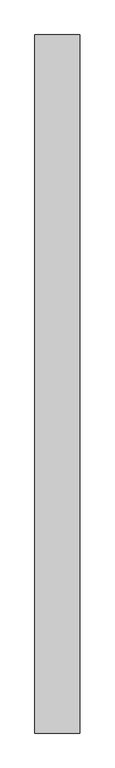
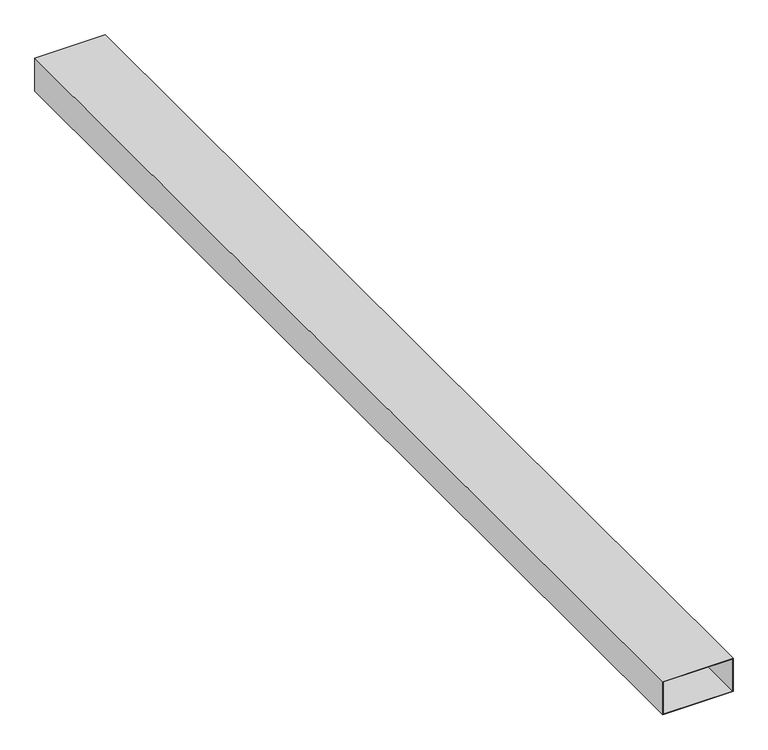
"""IFC4 building model written with IfcOpenShell, lengths in millimetres: furniture geometry, Ducto Metalico para Instalaciones : Ducto Metalico 10cm profundidad."""

from ifc_helpers import new_model, si_unit, frame, origin, place, context, project, spatial, polyline, outline, extrude, source, transform, mapped, element, save


def furniture_388dc08d(model_context):
    return source(origin(), model_context, "Body", "SweptSolid", [
        extrude(outline(polyline([(100.0, -100.0), (0.0, -100.0), (0.0, 100.0), (100.0, 100.0), (100.0, -100.0)]), holes=[polyline([(98.0, 98.0), (2.0, 98.0), (2.0, -98.0), (98.0, -98.0), (98.0, 98.0)])]), frame((0.0, -3100.0, 0.0), z_axis=(0.0, 1.0, 0.0), x_axis=(0.0, 0.0, 1.0)), (0.0, 0.0, 1.0), 3100.0),
    ])


if __name__ == "__main__":
    model = new_model("IFC4")
    model_context = context("Model", 3, world=origin())
    ifc_project = project(units=[si_unit("LENGTHUNIT", "METRE", prefix="MILLI")], contexts=[model_context])
    site = spatial("IfcSite", under=ifc_project)
    building = spatial("IfcBuilding", under=site)
    placement = place(None, origin())
    furniture_shape = furniture_388dc08d(model_context)
    element("IfcFurniture", 1, ObjectType="Ducto Metalico para Instalaciones : Ducto Metalico 10cm profundidad", at=placement, inside=building, context=model_context, shape_type="MappedRepresentation", body=[
        mapped(furniture_shape, transform((0.0, 0.0, 0.0), x_axis=(1.0, 0.0, 0.0), y_axis=(0.0, 1.0, 0.0), z_axis=(0.0, 0.0, 1.0))),
    ])
    save(model, "model.ifc")
